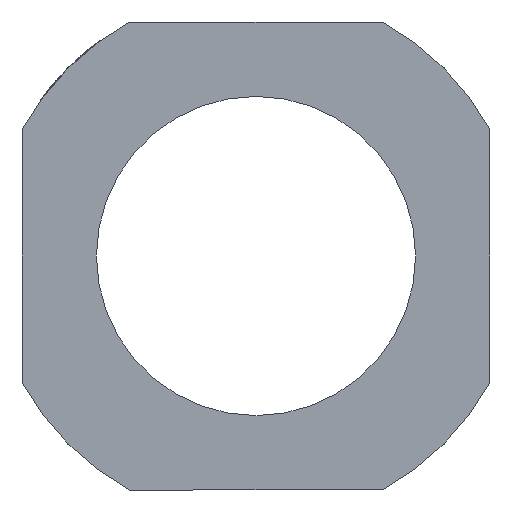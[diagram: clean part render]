
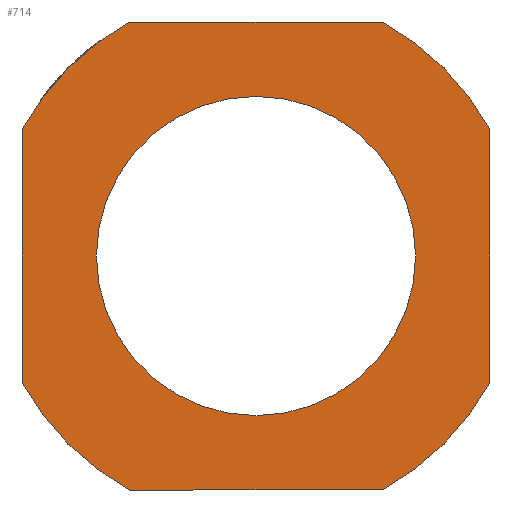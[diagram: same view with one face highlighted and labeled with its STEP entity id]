
A CAD part, left-side view. The second image highlights one B-rep face of the part: STEP entity #714.
In plain terms, the highlighted planar face has unit normal (-1, 0, 0).
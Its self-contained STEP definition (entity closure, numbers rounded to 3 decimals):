
#409=CARTESIAN_POINT('',(0.0,-7.5,0.0));
#410=VERTEX_POINT('',#409);
#411=CARTESIAN_POINT('',(0.0,0.0,0.0));
#412=DIRECTION('',(1.0,0.0,0.0));
#413=DIRECTION('',(0.0,-1.0,0.0));
#414=AXIS2_PLACEMENT_3D('',#411,#412,#413);
#415=CIRCLE('',#414,7.5);
#416=EDGE_CURVE('',#410,#410,#415,.T.);
#436=CARTESIAN_POINT('',(0.0,5.937,11.));
#437=VERTEX_POINT('',#436);
#444=CARTESIAN_POINT('',(0.0,-5.937,11.));
#445=VERTEX_POINT('',#444);
#446=CARTESIAN_POINT('',(0.0,-5.937,11.));
#447=DIRECTION('',(0.0,1.0,0.0));
#448=VECTOR('',#447,11.874);
#449=LINE('',#446,#448);
#450=EDGE_CURVE('',#445,#437,#449,.T.);
#476=CARTESIAN_POINT('',(0.0,-5.937,-11.));
#477=VERTEX_POINT('',#476);
#484=CARTESIAN_POINT('',(0.0,5.937,-11.));
#485=VERTEX_POINT('',#484);
#486=CARTESIAN_POINT('',(0.0,5.937,-11.));
#487=DIRECTION('',(0.0,-1.0,0.0));
#488=VECTOR('',#487,11.874);
#489=LINE('',#486,#488);
#490=EDGE_CURVE('',#485,#477,#489,.T.);
#516=CARTESIAN_POINT('',(0.0,-11.0,5.937));
#517=VERTEX_POINT('',#516);
#524=CARTESIAN_POINT('',(0.0,-11.,-5.937));
#525=VERTEX_POINT('',#524);
#526=CARTESIAN_POINT('',(0.0,-11.,-5.937));
#527=DIRECTION('',(0.0,0.0,1.0));
#528=VECTOR('',#527,11.874);
#529=LINE('',#526,#528);
#530=EDGE_CURVE('',#525,#517,#529,.T.);
#556=CARTESIAN_POINT('',(0.0,11.,-5.937));
#557=VERTEX_POINT('',#556);
#564=CARTESIAN_POINT('',(0.0,11.,5.937));
#565=VERTEX_POINT('',#564);
#566=CARTESIAN_POINT('',(0.0,11.,5.937));
#567=DIRECTION('',(0.0,0.0,-1.0));
#568=VECTOR('',#567,11.874);
#569=LINE('',#566,#568);
#570=EDGE_CURVE('',#565,#557,#569,.T.);
#587=CARTESIAN_POINT('',(0.0,0.0,0.0));
#588=DIRECTION('',(1.0,0.0,0.0));
#589=DIRECTION('',(0.0,1.0,0.0));
#590=AXIS2_PLACEMENT_3D('',#587,#588,#589);
#591=CIRCLE('',#590,12.5);
#592=EDGE_CURVE('',#485,#557,#591,.T.);
#619=CARTESIAN_POINT('',(0.0,0.0,0.0));
#620=DIRECTION('',(1.0,0.0,0.0));
#621=DIRECTION('',(0.0,1.0,0.0));
#622=AXIS2_PLACEMENT_3D('',#619,#620,#621);
#623=CIRCLE('',#622,12.5);
#624=EDGE_CURVE('',#525,#477,#623,.T.);
#643=CARTESIAN_POINT('',(0.0,0.0,0.0));
#644=DIRECTION('',(1.0,0.0,0.0));
#645=DIRECTION('',(0.0,1.0,0.0));
#646=AXIS2_PLACEMENT_3D('',#643,#644,#645);
#647=CIRCLE('',#646,12.5);
#648=EDGE_CURVE('',#565,#437,#647,.T.);
#690=CARTESIAN_POINT('',(0.0,6.25,0.0));
#691=DIRECTION('',(-1.0,0.0,0.0));
#692=DIRECTION('',(0.0,0.0,1.0));
#693=AXIS2_PLACEMENT_3D('',#690,#691,#692);
#694=PLANE('',#693);
#695=ORIENTED_EDGE('',*,*,#450,.T.);
#696=ORIENTED_EDGE('',*,*,#648,.F.);
#697=ORIENTED_EDGE('',*,*,#570,.T.);
#698=ORIENTED_EDGE('',*,*,#592,.F.);
#699=ORIENTED_EDGE('',*,*,#490,.T.);
#700=ORIENTED_EDGE('',*,*,#624,.F.);
#701=ORIENTED_EDGE('',*,*,#530,.T.);
#702=CARTESIAN_POINT('',(0.0,0.0,0.0));
#703=DIRECTION('',(1.0,0.0,0.0));
#704=DIRECTION('',(0.0,1.0,0.0));
#705=AXIS2_PLACEMENT_3D('',#702,#703,#704);
#706=CIRCLE('',#705,12.5);
#707=EDGE_CURVE('',#445,#517,#706,.T.);
#708=ORIENTED_EDGE('',*,*,#707,.F.);
#709=EDGE_LOOP('',(#695,#696,#697,#698,#699,#700,#701,#708));
#710=FACE_OUTER_BOUND('',#709,.T.);
#711=ORIENTED_EDGE('',*,*,#416,.T.);
#712=EDGE_LOOP('',(#711));
#713=FACE_BOUND('',#712,.T.);
#714=ADVANCED_FACE('',(#710,#713),#694,.T.);
